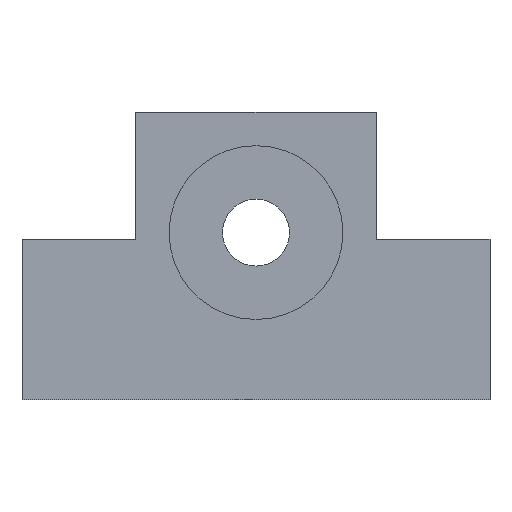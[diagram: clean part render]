
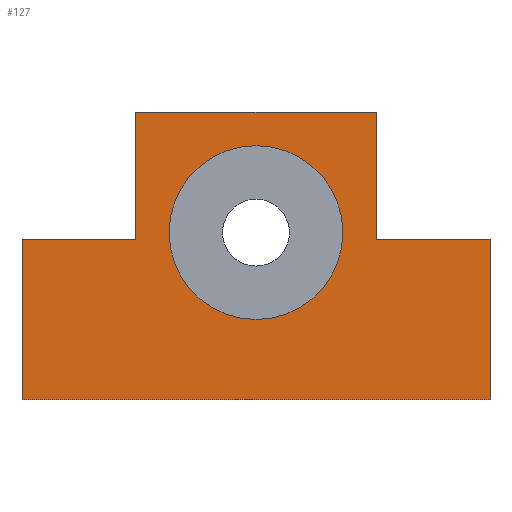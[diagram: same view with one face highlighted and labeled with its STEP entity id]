
A CAD part, left-side view. The second image highlights one B-rep face of the part: STEP entity #127.
In plain terms, the highlighted planar face has unit normal (-1, 0, 0).
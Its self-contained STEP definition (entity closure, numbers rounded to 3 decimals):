
#37=LINE('',#523,#61);
#41=LINE('',#532,#65);
#45=LINE('',#541,#69);
#48=LINE('',#547,#72);
#51=LINE('',#553,#75);
#54=LINE('',#559,#78);
#55=LINE('',#560,#79);
#56=LINE('',#561,#80);
#61=VECTOR('',#430,1.);
#65=VECTOR('',#436,1.);
#69=VECTOR('',#442,1.);
#72=VECTOR('',#447,1.);
#75=VECTOR('',#452,1.);
#78=VECTOR('',#457,1.);
#79=VECTOR('',#458,1.);
#80=VECTOR('',#459,1.);
#111=PLANE('',#390);
#127=ADVANCED_FACE('',(#154,#155),#111,.F.);
#154=FACE_BOUND('',#192,.T.);
#155=FACE_BOUND('',#193,.T.);
#192=EDGE_LOOP('',(#245,#246,#247,#248,#249,#250,#251,#252));
#193=EDGE_LOOP('',(#253));
#245=ORIENTED_EDGE('',*,*,#345,.F.);
#246=ORIENTED_EDGE('',*,*,#342,.F.);
#247=ORIENTED_EDGE('',*,*,#339,.F.);
#248=ORIENTED_EDGE('',*,*,#336,.F.);
#249=ORIENTED_EDGE('',*,*,#346,.F.);
#250=ORIENTED_EDGE('',*,*,#332,.F.);
#251=ORIENTED_EDGE('',*,*,#347,.F.);
#252=ORIENTED_EDGE('',*,*,#328,.F.);
#253=ORIENTED_EDGE('',*,*,#348,.T.);
#297=VERTEX_POINT('',#521);
#299=VERTEX_POINT('',#524);
#301=VERTEX_POINT('',#530);
#303=VERTEX_POINT('',#533);
#305=VERTEX_POINT('',#539);
#307=VERTEX_POINT('',#542);
#309=VERTEX_POINT('',#548);
#311=VERTEX_POINT('',#554);
#313=VERTEX_POINT('',#563);
#328=EDGE_CURVE('LINE',#297,#299,#37,.T.);
#332=EDGE_CURVE('LINE',#301,#303,#41,.T.);
#336=EDGE_CURVE('LINE',#305,#307,#45,.T.);
#339=EDGE_CURVE('LINE',#307,#309,#48,.T.);
#342=EDGE_CURVE('LINE',#309,#311,#51,.T.);
#345=EDGE_CURVE('LINE',#311,#297,#54,.T.);
#346=EDGE_CURVE('LINE',#303,#305,#55,.T.);
#347=EDGE_CURVE('LINE',#299,#301,#56,.T.);
#348=EDGE_CURVE('GENERATED CIRCLE',#313,#313,#365,.T.);
#365=CIRCLE('',#389,13.);
#389=AXIS2_PLACEMENT_3D('',#562,#460,#461);
#390=AXIS2_PLACEMENT_3D('',#564,#462,#463);
#430=DIRECTION('',(0.,0.,-1.));
#436=DIRECTION('',(0.,0.,1.));
#442=DIRECTION('',(0.,0.,1.));
#447=DIRECTION('',(0.,-1.,0.));
#452=DIRECTION('',(0.,0.,-1.));
#457=DIRECTION('',(0.,-1.,0.));
#458=DIRECTION('',(0.,-1.,0.));
#459=DIRECTION('',(0.,1.,0.));
#460=DIRECTION('',(1.,0.,0.));
#461=DIRECTION('',(0.,0.,-1.));
#462=DIRECTION('',(1.,0.,0.));
#463=DIRECTION('',(0.,-1.,0.));
#521=CARTESIAN_POINT('',(-10.,-35.,24.));
#523=CARTESIAN_POINT('',(-10.,-35.,12.));
#524=CARTESIAN_POINT('',(-10.,-35.,0.));
#530=CARTESIAN_POINT('',(-10.,35.,0.));
#532=CARTESIAN_POINT('',(-10.,35.,12.));
#533=CARTESIAN_POINT('',(-10.,35.,24.));
#539=CARTESIAN_POINT('',(-10.,18.,24.));
#541=CARTESIAN_POINT('',(-10.,18.,33.5));
#542=CARTESIAN_POINT('',(-10.,18.,43.));
#547=CARTESIAN_POINT('',(-10.,0.,43.));
#548=CARTESIAN_POINT('',(-10.,-18.,43.));
#553=CARTESIAN_POINT('',(-10.,-18.,33.5));
#554=CARTESIAN_POINT('',(-10.,-18.,24.));
#559=CARTESIAN_POINT('',(-10.,-26.5,24.));
#560=CARTESIAN_POINT('',(-10.,26.5,24.));
#561=CARTESIAN_POINT('',(-10.,0.,0.));
#562=CARTESIAN_POINT('',(-10.,0.,25.));
#563=CARTESIAN_POINT('',(-10.,0.,12.));
#564=CARTESIAN_POINT('',(-10.,0.,0.));
